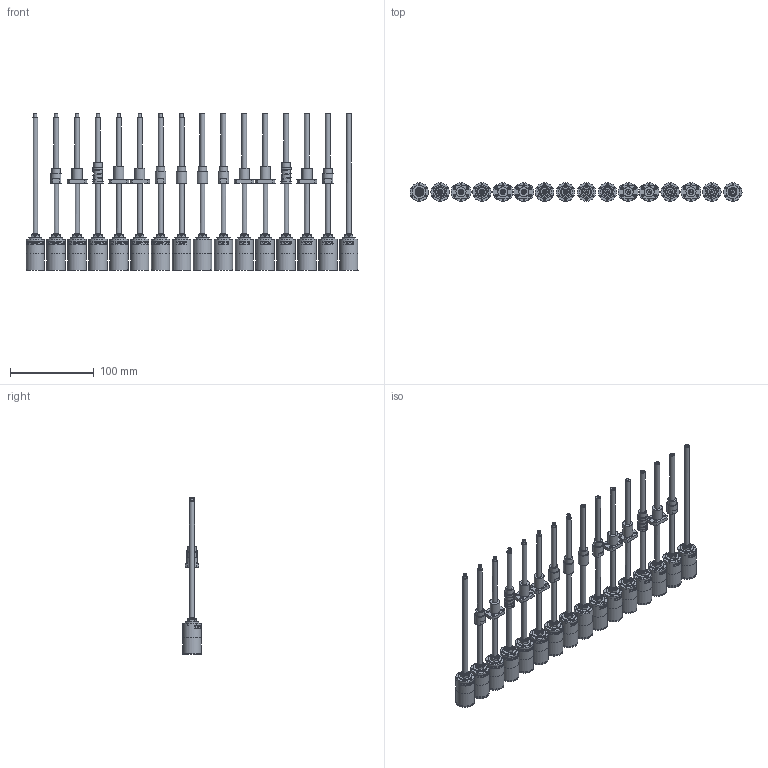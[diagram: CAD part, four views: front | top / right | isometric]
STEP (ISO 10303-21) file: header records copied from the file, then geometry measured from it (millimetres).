
FILE_DESCRIPTION(/* description */ (''),/* implementation_level */ '2;1');
FILE_NAME(/* name */ '922L-2stage_standard+KWNx+KWS1.stp',/* time_stamp */ '2022-11-04T08:17:05+01:00',/* author */ ('DR. FRITZ FAULHABER GmbH & Co. KG'),/* organization */ ('DR. FRITZ FAULHABER GmbH & Co. KG'),/* preprocessor_version */ 'ST-DEVELOPER v16.7',/* originating_system */ 'SIEMENS PLM Software NX 1919',/* authorisation */ '');
FILE_SCHEMA (('AUTOMOTIVE_DESIGN { 1 0 10303 214 3 1 1 1 }'));
Length unit declared in the file: millimetre
Products named in the file (1): LA_part
Bounding box: 397 x 22.01 x 187.2 mm (x, y, z)
Volume: 312539.3 mm3; surface area: 117947.6 mm2
Topology: 16 solids, 16 shells, 2084 faces, 5004 edges, 3363 vertices
Faces by surface type: plane 1090, cylinder 555, bspline 391, torus 32, cone 16
Full cylindrical faces by diameter (mm): 1.6 x96, 3.4 x24, 4 x8, 6 x46, 6.6 x16, 10 x8, 10.068 x16, 10.1 x2, 12 x20, 12.5 x8, 16 x16, 20.8 x16, 21 x16, 21.999 x16, 22 x32
Entity records: 110331 total; most frequent: CARTESIAN_POINT 60886, ORIENTED_EDGE 8992, DIRECTION 6957, EDGE_CURVE 4496, VERTEX_POINT 3265, EDGE_LOOP 2941, AXIS2_PLACEMENT_3D 2934, B_SPLINE_CURVE_WITH_KNOTS 2167
